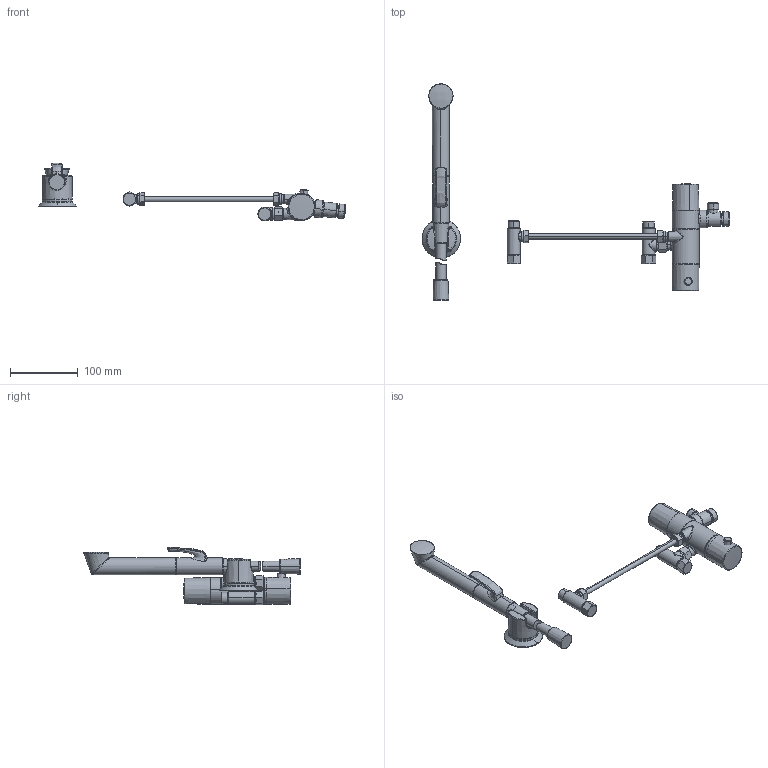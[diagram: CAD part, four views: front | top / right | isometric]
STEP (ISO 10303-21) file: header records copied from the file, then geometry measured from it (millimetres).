
FILE_DESCRIPTION (( 'STEP AP203' ), '1' );
FILE_NAME ('197095Z(2024).STEP', '2023-11-01T11:55:27', ( '' ), ( '' ), 'SwSTEP 2.0', 'SolidWorks 2016', '' );
FILE_SCHEMA (( 'CONFIG_CONTROL_DESIGN' ));
Length unit declared in the file: millimetre
Products named in the file (1): 197095Z(2024)
Bounding box: 453.61 x 318.65 x 85.35 mm (x, y, z)
Volume: 500303.6 mm3; surface area: 101359.9 mm2
Topology: 20 solids, 20 shells, 413 faces, 952 edges, 593 vertices
Faces by surface type: bspline 128, cone 95, plane 91, cylinder 68, torus 31
Entity records: 34687 total; most frequent: CARTESIAN_POINT 26208, ORIENTED_EDGE 1896, DIRECTION 1554, EDGE_CURVE 948, AXIS2_PLACEMENT_3D 681, VERTEX_POINT 593, EDGE_LOOP 431, ADVANCED_FACE 413
